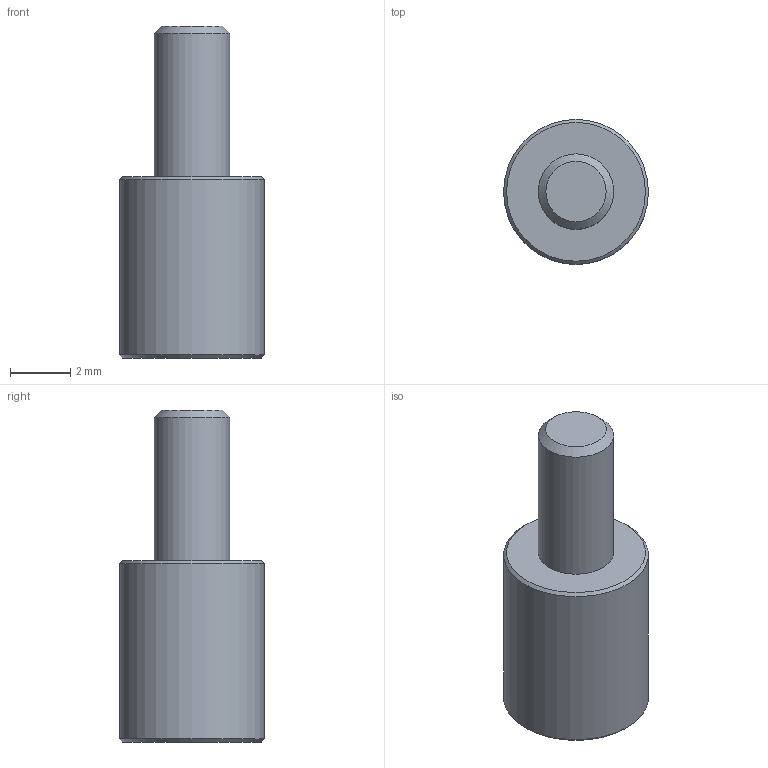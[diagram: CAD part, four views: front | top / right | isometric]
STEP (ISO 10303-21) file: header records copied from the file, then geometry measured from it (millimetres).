
FILE_DESCRIPTION( ( 'STEP AP214' ), '1' );
FILE_NAME( 'N:/Engineering/CAD_Solid/LVDT/Zubehör/Tastkopf_03.stp', '2011-12-12T13:59:17', ( ' ' ), ( ' ' ), 'XStep 1.0', ' ', ' ' );
FILE_SCHEMA( ( 'CONFIG_CONTROL_DESIGN) ( )' ) );
Length unit declared in the file: metre
Products named in the file (1): 1
Bounding box: 4.8 x 4.8 x 11 mm (x, y, z)
Volume: 132.7 mm3; surface area: 162.9 mm2
Topology: 1 solids, 1 shells, 8 faces, 13 edges, 8 vertices
Faces by surface type: cone 3, plane 3, cylinder 2
Full cylindrical faces by diameter (mm): 2.5 x1, 4.8 x1
Entity records: 234 total; most frequent: DIRECTION 32, CARTESIAN_POINT 23, AXIS2_PLACEMENT_3D 16, EDGE_LOOP 14, ORIENTED_EDGE 14, FACE_OUTER_BOUND 10, STYLED_ITEM 8, PRESENTATION_STYLE_ASSIGNMENT 8
